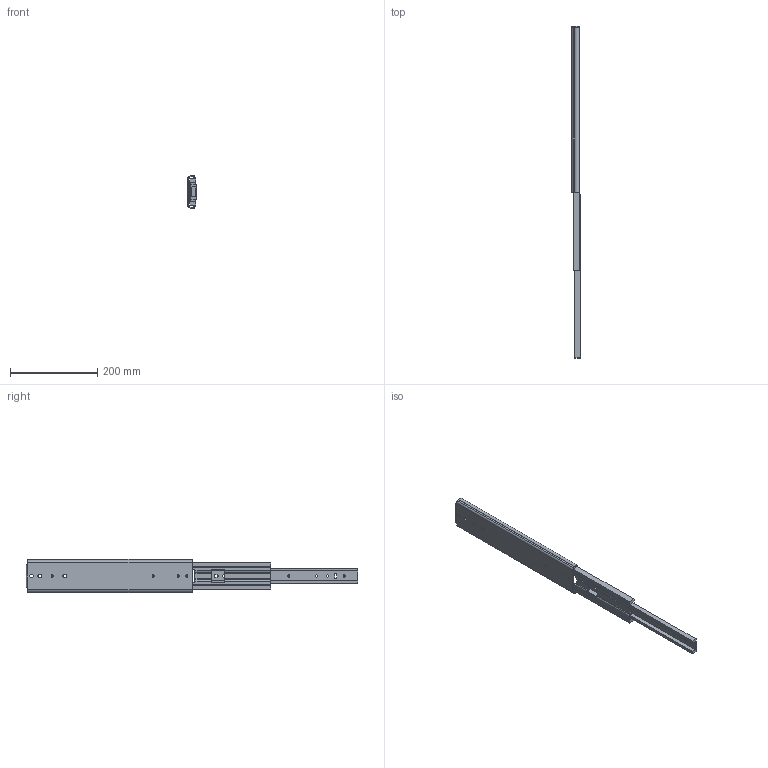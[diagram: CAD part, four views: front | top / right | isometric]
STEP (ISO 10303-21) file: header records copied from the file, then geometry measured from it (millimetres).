
FILE_DESCRIPTION(/* description */ ('Unknown'),/* implementation_level */ '2;1');
FILE_NAME(/* name */ '76J01-15 open',/* time_stamp */ '2024-07-26T15:24:51+08:00',/* author */ ('Unknown'),/* organization */ ('Unknown'),/* preprocessor_version */ 'ST-DEVELOPER v18.104',/* originating_system */ 'Solid Edge',/* authorisation */ 'Unknown');
FILE_SCHEMA (('AUTOMOTIVE_DESIGN {1 0 10303 214 3 1 1}'));
Length unit declared in the file: millimetre
Products named in the file (4): 76J01-15 open; 76J01 15 inch ¤º_0qº; 76J01 15 吋中_; 76J01 15 嬪
Assembly tree (3 placements, depth 2):
  76J01-15 open
    76J01 15 inch ¤º_0qº
    76J01 15 吋中_
    76J01 15 嬪
Bounding box: 19.3 x 761.3 x 76.76 mm (x, y, z)
Volume: 296013.7 mm3; surface area: 185684.6 mm2
Topology: 3 solids, 3 shells, 163 faces, 491 edges, 330 vertices
Faces by surface type: plane 92, cylinder 71
Full cylindrical faces by diameter (mm): 5.2 x8
Entity records: 5969 total; most frequent: CARTESIAN_POINT 967, DIRECTION 951, ORIENTED_EDGE 950, EDGE_CURVE 475, LINE 331, VECTOR 331, VERTEX_POINT 322, AXIS2_PLACEMENT_3D 310
